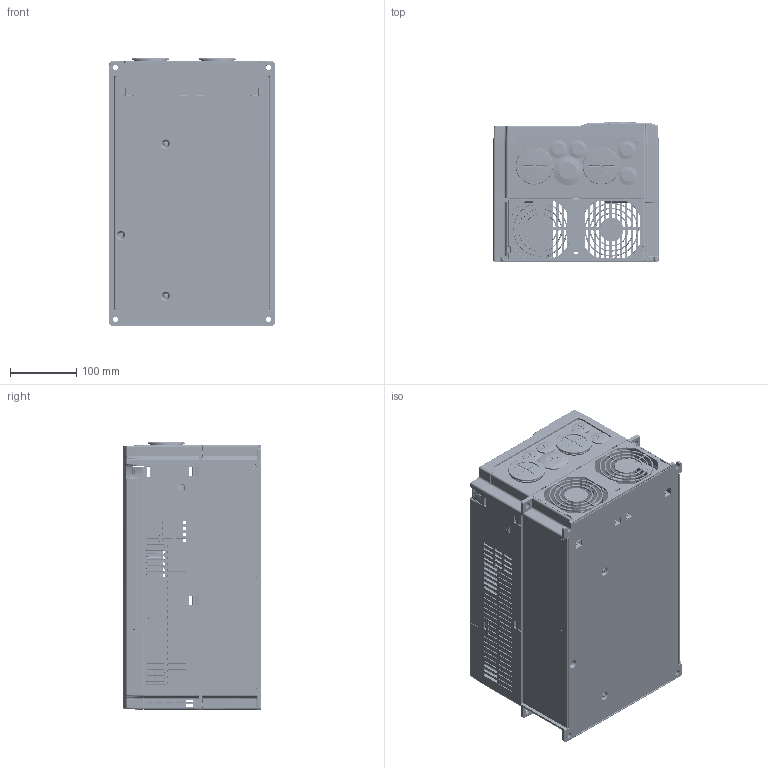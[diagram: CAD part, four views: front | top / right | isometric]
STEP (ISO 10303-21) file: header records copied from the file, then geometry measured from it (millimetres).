
FILE_DESCRIPTION((''),'2;1');
FILE_NAME('VFD-CP-C-PD-3D00_ASM','2020-01-07T17:00:18',('TONY.DAI'),(''),'CREO PARAMETRIC BY PTC INC, 2018500','CREO PARAMETRIC BY PTC INC, 2018500','');
FILE_SCHEMA(('AUTOMOTIVE_DESIGN { 1 0 10303 214 1 1 1 1 }'));
Products named in the file (55): PRT0001_1; PRT0002_1; PRT0003_1; ASM0005_ASM_ASM_1_ASM; ASM0004_ASM_ASM_1_ASM; PRT0004_1; ASM0006_ASM_ASM_1_ASM; PRT0005_1; PRT0006_1; PRT0007_1; PRT0008_1; PRT0009_1; PRT0010_1; PRT0011_1; PRT0012_1; ASM0010_ASM_ASM_1_ASM; ASM0009_ASM_ASM_1_ASM; BREP_WITH_VOIDS_150864_1; MANIFOLD_SOLID_BREP_151440_1; 31054033EM-M8-TBLK-SCREW_1_ASM__ASM; ASM0011_ASM_ASM_1_ASM; PRT0013_1; ASM0008_ASM_ASM_1_ASM; ASM0007_ASM_ASM_1_ASM; ASM0003_ASM_ASM_1_ASM; PRT0014_1; ASM0012_ASM_ASM_1_ASM; PRT0015_1; PRT0016_1; ASM0013_ASM_ASM_1_ASM; PRT0017_1; PRT0018_1; PRT0019_1; ASM0015_ASM_ASM_1_ASM; ASM0014_ASM_ASM_1_ASM; PRT0020_1; PRT0021_1; PRT0022_1; ASM0017_ASM_ASM_1_ASM; ASM0016_ASM_ASM_1_ASM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
Assembly tree (85 placements, depth 10):
  VFD-CP-C-PD-3D00_ASM
    VFD-C-C-PD-3D01_ASM_1_ASM
      ASM0001_ASM_ASM_1_ASM
        ASM0002_ASM_ASM_1_ASM
          ASM0003_ASM_ASM_1_ASM
            ASM0004_ASM_ASM_1_ASM
              ASM0005_ASM_ASM_1_ASM
                PRT0001_1
                PRT0002_1
                PRT0003_1
            ASM0006_ASM_ASM_1_ASM
              PRT0004_1
            PRT0005_1
            PRT0006_1  x2
            PRT0007_1  x6
            PRT0008_1
            ASM0007_ASM_ASM_1_ASM
              ASM0008_ASM_ASM_1_ASM
                PRT0009_1
                PRT0010_1  x8
                ASM0009_ASM_ASM_1_ASM  x11
                  ASM0010_ASM_ASM_1_ASM
                ASM0011_ASM_ASM_1_ASM  x2
                  31054033EM-M8-TBLK-SCREW_1_ASM__ASM
                PRT0013_1
          ASM0012_ASM_ASM_1_ASM
            PRT0014_1
          PRT0015_1  x2
          ASM0013_ASM_ASM_1_ASM
            PRT0016_1
          ASM0014_ASM_ASM_1_ASM
            PRT0017_1
            ASM0015_ASM_ASM_1_ASM
              PRT0018_1
              PRT0019_1  x2
          ASM0016_ASM_ASM_1_ASM
            ASM0017_ASM_ASM_1_ASM
              PRT0020_1
              PRT0021_1
              PRT0022_1
          PRT0028_1
          PRT0029_1  x4
          PRT0030_1
          PRT0031_1  x2
          PRT0032_1
          PRT0033_1
          PRT0034_1  x2
          ASM0019_ASM_ASM_1_ASM
            PRT0035_1
            PRT0036_1
      REMOVE_1
Bounding box: 250 x 210 x 404.5 mm (x, y, z)
Volume: 2772251.3 mm3; surface area: 1688075.4 mm2
Topology: 74 solids, 232 shells, 14415 faces, 39135 edges, 25443 vertices
Faces by surface type: plane 8194, cylinder 2693, cone 2023, extrusion 510, bspline 449, torus 426, sphere 118, revolution 2
Entity records: 575059 total; most frequent: CARTESIAN_POINT 118140, ORIENTED_EDGE 65586, DIRECTION 57900, PRESENTATION_STYLE_ASSIGNMENT 36651, STYLED_ITEM 36651, EDGE_CURVE 32793, CURVE_STYLE 27156, VECTOR 21793
